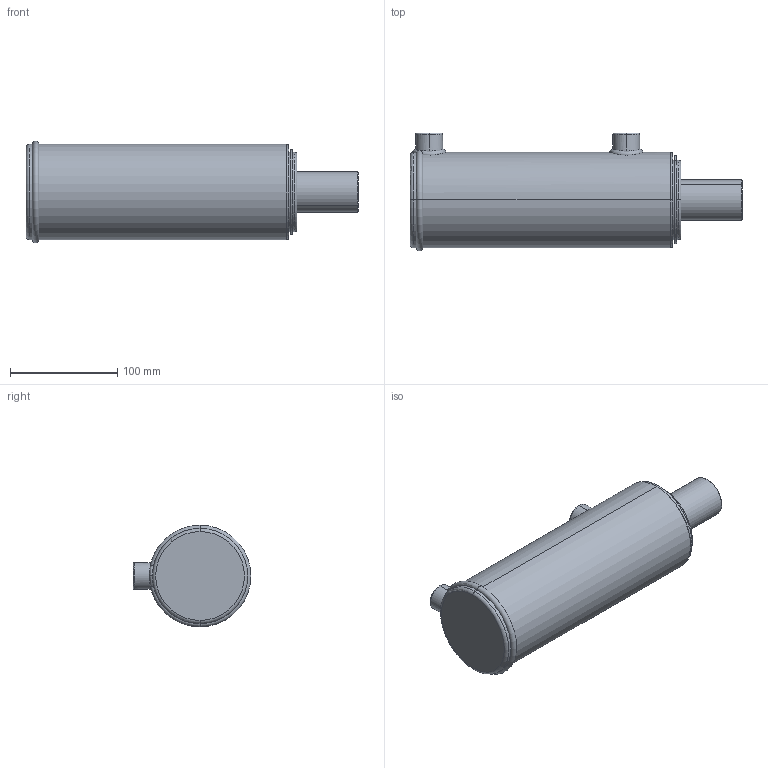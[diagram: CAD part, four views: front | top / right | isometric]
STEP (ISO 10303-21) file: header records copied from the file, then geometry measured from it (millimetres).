
FILE_DESCRIPTION (( 'STEP AP203' ), '1' );
FILE_NAME ('BL300150x152 (6).STEP', '2014-11-23T22:31:38', ( '' ), ( '' ), 'SwSTEP 2.0', 'SolidWorks 2014', '' );
FILE_SCHEMA (( 'CONFIG_CONTROL_DESIGN' ));
Length unit declared in the file: millimetre
Products named in the file (3): BL body 3_3x6; Spare_3x6; BL300150x152 (6)
Assembly tree (2 placements, depth 2):
  BL300150x152 (6)
    BL body 3_3x6
    Spare_3x6
Bounding box: 310 x 109.9 x 94.9 mm (x, y, z)
Volume: 1631784.5 mm3; surface area: 157172.5 mm2
Topology: 2 solids, 2 shells, 88 faces, 205 edges, 126 vertices
Faces by surface type: cylinder 32, plane 20, torus 17, bspline 11, cone 8
Entity records: 5992 total; most frequent: CARTESIAN_POINT 3745, DIRECTION 420, ORIENTED_EDGE 402, EDGE_CURVE 201, AXIS2_PLACEMENT_3D 181, VERTEX_POINT 126, EDGE_LOOP 101, CIRCLE 99
